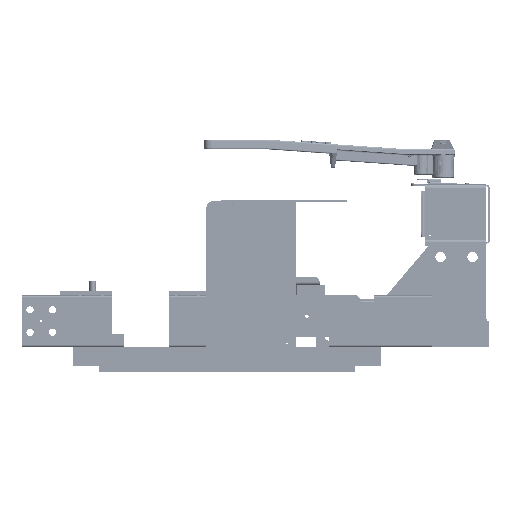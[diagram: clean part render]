
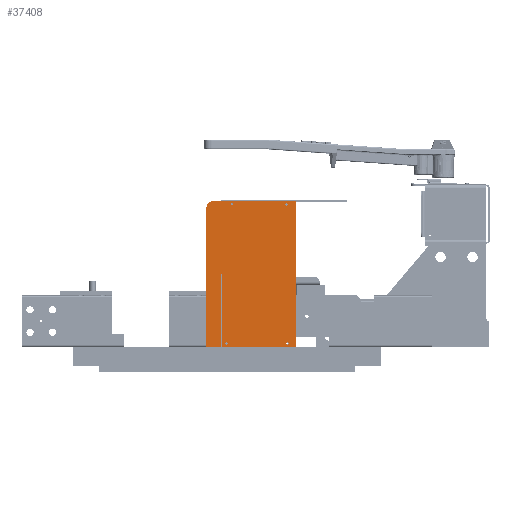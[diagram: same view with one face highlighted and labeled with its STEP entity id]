
A CAD part, left-side view. The second image highlights one B-rep face of the part: STEP entity #37408.
In plain terms, the highlighted planar face has unit normal (-1, 0, 0) as drawn and (0, 0, 1) by its records, which use the part's own axes.
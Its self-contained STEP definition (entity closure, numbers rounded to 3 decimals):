
#1890=FACE_BOUND('',#6790,.T.);
#1891=FACE_BOUND('',#6791,.T.);
#1892=FACE_BOUND('',#6792,.T.);
#1893=FACE_BOUND('',#6793,.T.);
#2733=PLANE('',#41215);
#4187=FACE_OUTER_BOUND('',#6789,.T.);
#6789=EDGE_LOOP('',(#30294,#30295,#30296,#30297,#30298,#30299,#30300,#30301,
#30302));
#6790=EDGE_LOOP('',(#30303));
#6791=EDGE_LOOP('',(#30304));
#6792=EDGE_LOOP('',(#30305));
#6793=EDGE_LOOP('',(#30306));
#9692=LINE('',#60071,#12725);
#9695=LINE('',#60077,#12728);
#9698=LINE('',#60083,#12731);
#9701=LINE('',#60089,#12734);
#9704=LINE('',#60095,#12737);
#9707=LINE('',#60101,#12740);
#9710=LINE('',#60107,#12743);
#9713=LINE('',#60111,#12746);
#12725=VECTOR('',#48840,0.394);
#12728=VECTOR('',#48845,0.394);
#12731=VECTOR('',#48850,0.394);
#12734=VECTOR('',#48855,0.394);
#12737=VECTOR('',#48860,0.394);
#12740=VECTOR('',#48865,0.394);
#12743=VECTOR('',#48870,0.394);
#12746=VECTOR('',#48875,0.394);
#15206=CIRCLE('',#41193,0.097);
#15208=CIRCLE('',#41196,0.097);
#15210=CIRCLE('',#41199,0.097);
#15212=CIRCLE('',#41202,0.097);
#15214=CIRCLE('',#41205,0.5);
#17702=VERTEX_POINT('',#60037);
#17704=VERTEX_POINT('',#60043);
#17706=VERTEX_POINT('',#60049);
#17708=VERTEX_POINT('',#60055);
#17711=VERTEX_POINT('',#60062);
#17712=VERTEX_POINT('',#60064);
#17714=VERTEX_POINT('',#60070);
#17716=VERTEX_POINT('',#60076);
#17718=VERTEX_POINT('',#60082);
#17720=VERTEX_POINT('',#60088);
#17722=VERTEX_POINT('',#60094);
#17724=VERTEX_POINT('',#60100);
#17726=VERTEX_POINT('',#60106);
#22144=EDGE_CURVE('',#17702,#17702,#15206,.T.);
#22147=EDGE_CURVE('',#17704,#17704,#15208,.T.);
#22150=EDGE_CURVE('',#17706,#17706,#15210,.T.);
#22153=EDGE_CURVE('',#17708,#17708,#15212,.T.);
#22156=EDGE_CURVE('',#17712,#17711,#15214,.T.);
#22159=EDGE_CURVE('',#17714,#17712,#9692,.T.);
#22162=EDGE_CURVE('',#17716,#17714,#9695,.T.);
#22165=EDGE_CURVE('',#17718,#17716,#9698,.T.);
#22168=EDGE_CURVE('',#17720,#17718,#9701,.T.);
#22171=EDGE_CURVE('',#17722,#17720,#9704,.T.);
#22174=EDGE_CURVE('',#17724,#17722,#9707,.T.);
#22177=EDGE_CURVE('',#17726,#17724,#9710,.T.);
#22180=EDGE_CURVE('',#17711,#17726,#9713,.T.);
#30294=ORIENTED_EDGE('',*,*,#22180,.T.);
#30295=ORIENTED_EDGE('',*,*,#22177,.T.);
#30296=ORIENTED_EDGE('',*,*,#22174,.T.);
#30297=ORIENTED_EDGE('',*,*,#22171,.T.);
#30298=ORIENTED_EDGE('',*,*,#22168,.T.);
#30299=ORIENTED_EDGE('',*,*,#22165,.T.);
#30300=ORIENTED_EDGE('',*,*,#22162,.T.);
#30301=ORIENTED_EDGE('',*,*,#22159,.T.);
#30302=ORIENTED_EDGE('',*,*,#22156,.T.);
#30303=ORIENTED_EDGE('',*,*,#22144,.T.);
#30304=ORIENTED_EDGE('',*,*,#22147,.T.);
#30305=ORIENTED_EDGE('',*,*,#22150,.T.);
#30306=ORIENTED_EDGE('',*,*,#22153,.T.);
#37408=ADVANCED_FACE('',(#4187,#1890,#1891,#1892,#1893),#2733,.T.);
#41193=AXIS2_PLACEMENT_3D('',#60039,#48806,#48807);
#41196=AXIS2_PLACEMENT_3D('',#60045,#48813,#48814);
#41199=AXIS2_PLACEMENT_3D('',#60051,#48820,#48821);
#41202=AXIS2_PLACEMENT_3D('',#60057,#48827,#48828);
#41205=AXIS2_PLACEMENT_3D('',#60065,#48834,#48835);
#41215=AXIS2_PLACEMENT_3D('',#60113,#48878,#48879);
#48806=DIRECTION('center_axis',(0.,0.,-1.));
#48807=DIRECTION('ref_axis',(-1.,0.,0.));
#48813=DIRECTION('center_axis',(0.,0.,-1.));
#48814=DIRECTION('ref_axis',(-1.,0.,0.));
#48820=DIRECTION('center_axis',(0.,0.,-1.));
#48821=DIRECTION('ref_axis',(-1.,0.,0.));
#48827=DIRECTION('center_axis',(0.,0.,-1.));
#48828=DIRECTION('ref_axis',(-1.,0.,0.));
#48834=DIRECTION('center_axis',(0.,0.,1.));
#48835=DIRECTION('ref_axis',(0.,-1.,0.));
#48840=DIRECTION('',(-1.,0.,0.));
#48845=DIRECTION('',(0.,1.,0.));
#48850=DIRECTION('',(1.,0.,0.));
#48855=DIRECTION('',(0.,-1.,0.));
#48860=DIRECTION('',(1.,0.,0.));
#48865=DIRECTION('',(0.,1.,0.));
#48870=DIRECTION('',(1.,0.,0.));
#48875=DIRECTION('',(0.,-1.,0.));
#48878=DIRECTION('center_axis',(0.,0.,1.));
#48879=DIRECTION('ref_axis',(1.,0.,0.));
#60037=CARTESIAN_POINT('',(1.66,0.25,0.125));
#60039=CARTESIAN_POINT('Origin',(1.563,0.25,0.125));
#60043=CARTESIAN_POINT('',(6.41,0.25,0.125));
#60045=CARTESIAN_POINT('Origin',(6.313,0.25,0.125));
#60049=CARTESIAN_POINT('',(2.097,11.125,0.125));
#60051=CARTESIAN_POINT('Origin',(2.,11.125,0.125));
#60055=CARTESIAN_POINT('',(6.347,11.125,0.125));
#60057=CARTESIAN_POINT('Origin',(6.25,11.125,0.125));
#60062=CARTESIAN_POINT('',(0.,10.875,0.125));
#60064=CARTESIAN_POINT('',(0.5,11.375,0.125));
#60065=CARTESIAN_POINT('Origin',(0.5,10.875,0.125));
#60070=CARTESIAN_POINT('',(7.,11.375,0.125));
#60071=CARTESIAN_POINT('',(0.5,11.375,0.125));
#60076=CARTESIAN_POINT('',(7.,0.,0.125));
#60077=CARTESIAN_POINT('',(7.,11.375,0.125));
#60082=CARTESIAN_POINT('',(1.25,0.,0.125));
#60083=CARTESIAN_POINT('',(7.,0.,0.125));
#60088=CARTESIAN_POINT('',(1.25,5.687,0.125));
#60089=CARTESIAN_POINT('',(1.25,0.,0.125));
#60094=CARTESIAN_POINT('',(1.125,5.687,0.125));
#60095=CARTESIAN_POINT('',(1.25,5.687,0.125));
#60100=CARTESIAN_POINT('',(1.125,0.,0.125));
#60101=CARTESIAN_POINT('',(1.125,5.687,0.125));
#60106=CARTESIAN_POINT('',(0.,0.,0.125));
#60107=CARTESIAN_POINT('',(1.125,0.,0.125));
#60111=CARTESIAN_POINT('',(0.,0.,0.125));
#60113=CARTESIAN_POINT('Origin',(2.979,4.976,0.125));
